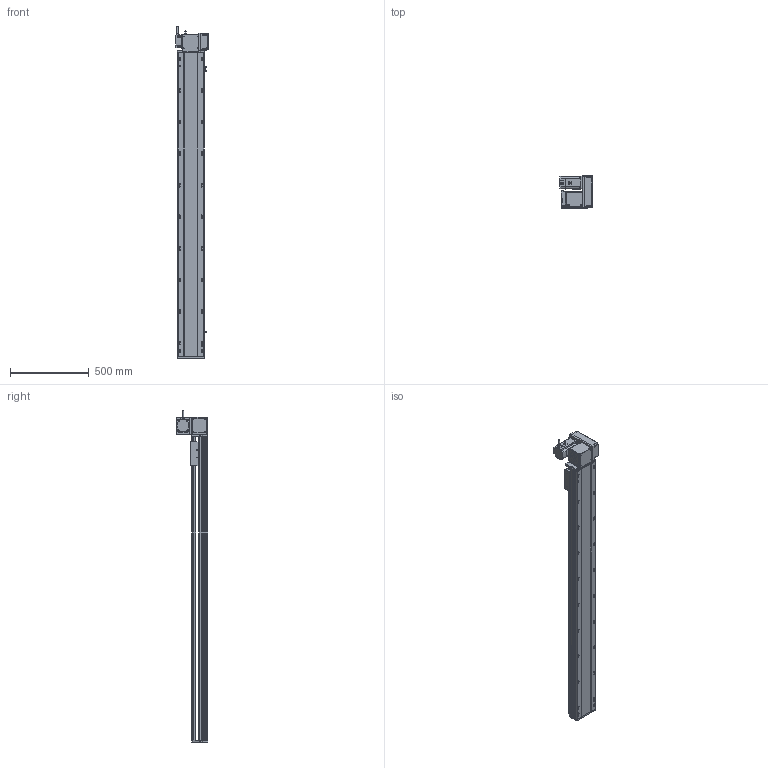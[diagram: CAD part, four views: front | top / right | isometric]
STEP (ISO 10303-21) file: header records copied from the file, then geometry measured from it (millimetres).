
FILE_DESCRIPTION (( 'STEP AP214' ), '1' );
FILE_NAME ('RTB17S-XX-1650-RW-M75-C4.STEP', '2025-12-12T02:39:51', ( '' ), ( '' ), 'SwSTEP 2.0', 'SolidWorks 2018', '' );
FILE_SCHEMA (( 'AUTOMOTIVE_DESIGN' ));
Length unit declared in the file: millimetre
Products named in the file (15): RTB17S-RW-々湍釱蚾饜-750W^RTB17S-XX-XX-RW-M75-C4; RTB17S-L-007奻裔^RTB17S-XX-XX-RW-M75-C4; RTB17-R-011菁釱^RTB17S-XX-XX-RW-M75-C4; RTB17S-賑釱^RTB17S-XX-XX-RW-M75-C4; RTB22S-GY-008-M75--萇儂啣^RTB17S-RW-々湍釱蚾饜-750W_RTB17S-XX-XX-RW-M75-C4; RTB22S-GY-018P^RTB17S-RW-々湍釱蚾饜-750W_RTB17S-XX-XX-RW-M75-C4; 750W萇儂^RTB17S-XX-XX-RW-M75-C4; RMP17S-L-014-T20-P75--々湍釱^RTB17S-RW-々湍釱蚾饜-750W_RTB17S-XX-XX-RW-M75-C4; RTB22S-GY-005P^RTB17S-RW-々湍釱蚾饜-750W_RTB17S-XX-XX-RW-M75-C4; RTB17S-XX-1650-RW-M75-C4; EE672^RTB17S-XX-XX-RW-M75-C4; RTH13-BL-012覜茼え俋离^RTB17S-賑釱_RTB17S-XX-XX-RW-M75-C4; RTB17S-L-001-耜醱啣^RTB17S-XX-XX-RW-M75-C4; RTB17S-L-004-賑釱^RTB17S-賑釱_RTB17S-XX-XX-RW-M75-C4; RTB22S-GY-017P^RTB17S-RW-々湍釱蚾饜-750W_RTB17S-XX-XX-RW-M75-C4
Assembly tree (17 placements, depth 3):
  RTB17S-XX-1650-RW-M75-C4
    RTB17-R-011菁釱^RTB17S-XX-XX-RW-M75-C4
    EE672^RTB17S-XX-XX-RW-M75-C4  x3
    RTB17S-L-001-耜醱啣^RTB17S-XX-XX-RW-M75-C4
    RTB17S-賑釱^RTB17S-XX-XX-RW-M75-C4
      RTB17S-L-004-賑釱^RTB17S-賑釱_RTB17S-XX-XX-RW-M75-C4
      RTH13-BL-012覜茼え俋离^RTB17S-賑釱_RTB17S-XX-XX-RW-M75-C4
    RTB17S-L-007奻裔^RTB17S-XX-XX-RW-M75-C4
    750W萇儂^RTB17S-XX-XX-RW-M75-C4
    RTB17S-RW-々湍釱蚾饜-750W^RTB17S-XX-XX-RW-M75-C4
      RMP17S-L-014-T20-P75--々湍釱^RTB17S-RW-々湍釱蚾饜-750W_RTB17S-XX-XX-RW-M75-C4
      RTB22S-GY-005P^RTB17S-RW-々湍釱蚾饜-750W_RTB17S-XX-XX-RW-M75-C4
      RTB22S-GY-017P^RTB17S-RW-々湍釱蚾饜-750W_RTB17S-XX-XX-RW-M75-C4  x2
      RTB22S-GY-008-M75--萇儂啣^RTB17S-RW-々湍釱蚾饜-750W_RTB17S-XX-XX-RW-M75-C4
      RTB22S-GY-018P^RTB17S-RW-々湍釱蚾饜-750W_RTB17S-XX-XX-RW-M75-C4
Bounding box: 207.4 x 201.5 x 2102.2 mm (x, y, z)
Volume: 16259150.1 mm3; surface area: 2871131.7 mm2
Topology: 17 solids, 17 shells, 2153 faces, 5998 edges, 3878 vertices
Faces by surface type: plane 978, cylinder 759, bspline 294, cone 110, sphere 8, torus 4
Entity records: 61174 total; most frequent: CARTESIAN_POINT 18062, ORIENTED_EDGE 8840, DIRECTION 8222, EDGE_CURVE 4420, AXIS2_PLACEMENT_3D 2898, VERTEX_POINT 2882, VECTOR 2426, LINE 2426
